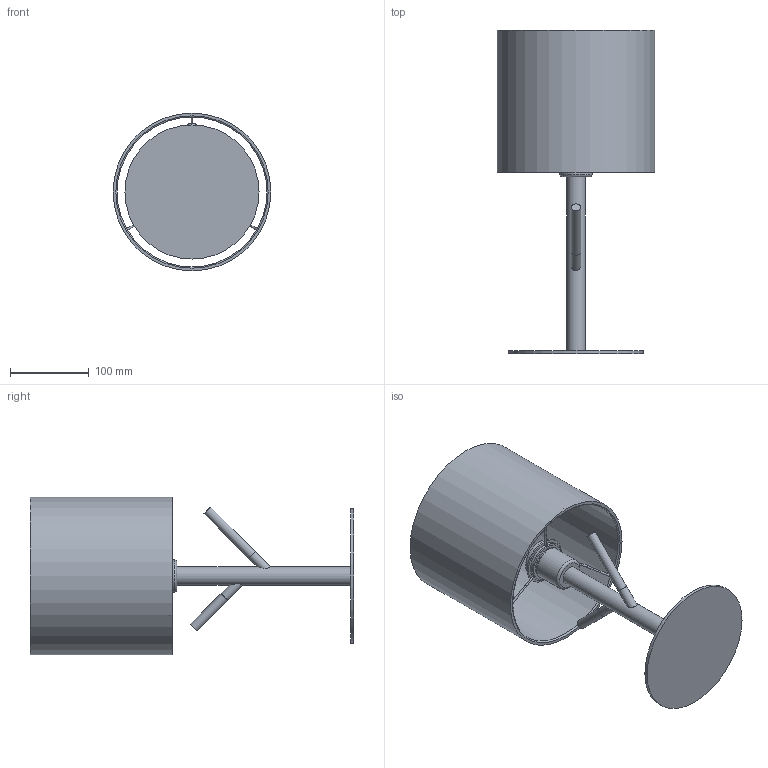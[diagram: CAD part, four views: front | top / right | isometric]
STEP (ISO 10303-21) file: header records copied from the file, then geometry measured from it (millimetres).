
FILE_DESCRIPTION(/* description */ (''),/* implementation_level */ '2;1');
FILE_NAME(/* name */ 'C:/Users/kubaw/OneDrive/Pulpit/Nowy folder (3)/5571_ALBERO WHITE v8.step',/* time_stamp */ '2021-12-11T09:23:23+01:00',/* author */ (''),/* organization */ (''),/* preprocessor_version */ 'ST-DEVELOPER v18.1',/* originating_system */ 'Autodesk Translation Framework v10.10.0.1391',/* authorisation */ '');
FILE_SCHEMA (('AUTOMOTIVE_DESIGN { 1 0 10303 214 3 1 1 }'));
Length unit declared in the file: millimetre
Products named in the file (2): 5571_ALBERO WHITE; Mocowanie_ALBERO
Assembly tree (1 placements, depth 2):
  5571_ALBERO WHITE
    Mocowanie_ALBERO
Bounding box: 200 x 410 x 200 mm (x, y, z)
Volume: 506251.5 mm3; surface area: 331369.7 mm2
Topology: 20 solids, 20 shells, 134 faces, 256 edges, 171 vertices
Faces by surface type: plane 81, cylinder 47, torus 6
Full cylindrical faces by diameter (mm): 2.5 x9, 3 x6, 12 x4, 23 x1, 24 x3, 27 x1, 38.85 x1, 39.953 x1, 40.8 x1, 42 x3, 42.953 x1, 45 x1, 48.435 x1, 49.5 x1, 51.5 x1, 58.8 x1, 170 x1, 196 x1, 200 x1
Entity records: 3610 total; most frequent: CARTESIAN_POINT 656, DIRECTION 651, ORIENTED_EDGE 512, AXIS2_PLACEMENT_3D 260, EDGE_CURVE 256, VERTEX_POINT 171, EDGE_LOOP 161, FACE_OUTER_BOUND 134
